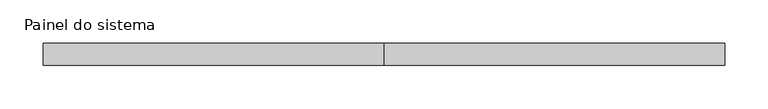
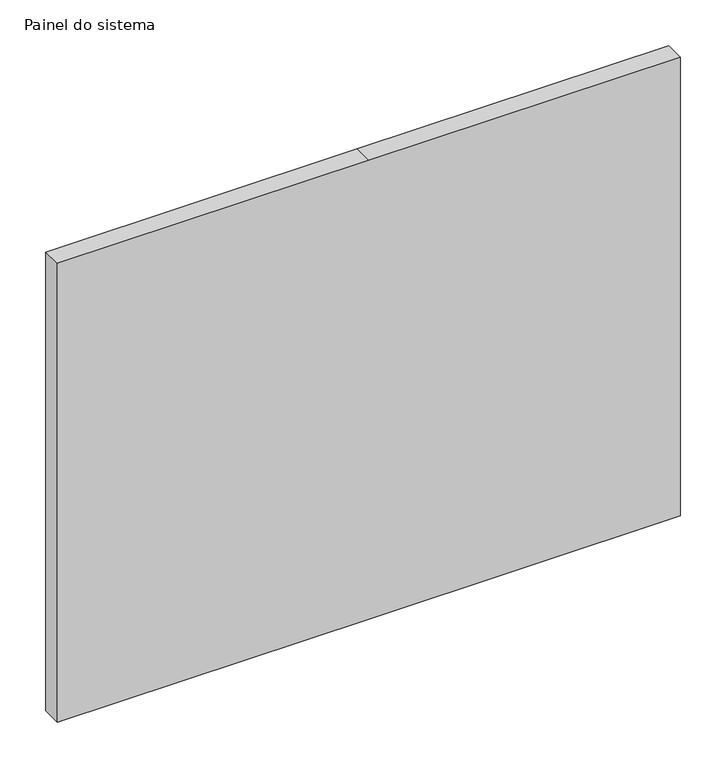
"""IFC4 building model written with IfcOpenShell, lengths in millimetres: plate geometry, Painel do sistema : Envidraçado."""

from ifc_helpers import new_model, si_unit, frame, origin, place, context, project, spatial, polyline, outline, extrude, source, transform, mapped, element, save


def painel_do_sistema_b303bdb6(model_context):
    return source(origin(), model_context, "Body", "SweptSolid", [
        extrude(outline(polyline([(0.0, -391.666496), (0.0, 0.0), (0.0, 391.666496), (610.0, 391.666496), (610.0, 0.0), (610.0, -391.666496), (0.0, -391.666496)])), frame((0.0, 24.5, 0.0), z_axis=(0.0, 1.0, 0.0), x_axis=(0.0, 0.0, 1.0)), (0.0, 0.0, 1.0), 25.0),
    ])


if __name__ == "__main__":
    model = new_model("IFC4")
    model_context = context("Model", 3, world=origin())
    ifc_project = project(units=[si_unit("LENGTHUNIT", "METRE", prefix="MILLI")], contexts=[model_context])
    site = spatial("IfcSite", under=ifc_project)
    building = spatial("IfcBuilding", under=site)
    placement = place(None, origin())
    painel_do_sistema_shape = painel_do_sistema_b303bdb6(model_context)
    element("IfcPlate", 1, ObjectType="Painel do sistema : Envidraçado", at=placement, inside=building, context=model_context, shape_type="MappedRepresentation", body=[
        mapped(painel_do_sistema_shape, transform((0.0, 0.0, 0.0), x_axis=(1.0, 0.0, 0.0), y_axis=(0.0, 1.0, 0.0), z_axis=(0.0, 0.0, 1.0))),
    ])
    save(model, "model.ifc")
